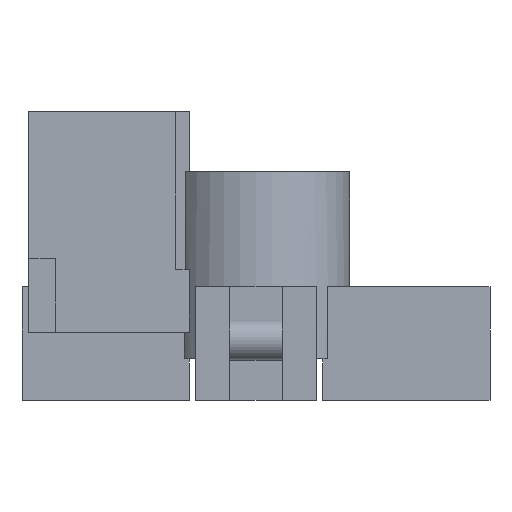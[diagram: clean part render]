
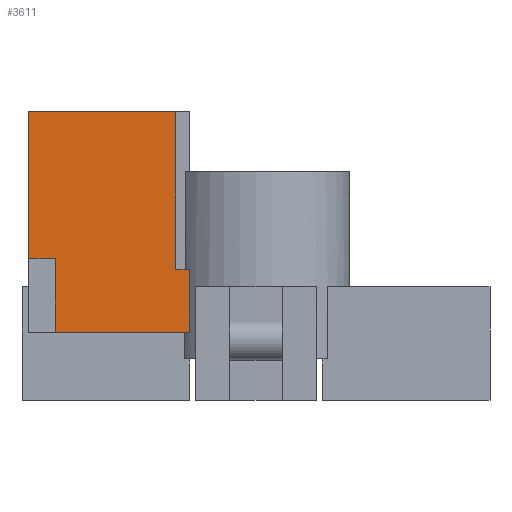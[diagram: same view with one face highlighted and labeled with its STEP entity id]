
A CAD part, front view. The second image highlights one B-rep face of the part: STEP entity #3611.
In plain terms, the highlighted planar face has unit normal (0, -1, 0).
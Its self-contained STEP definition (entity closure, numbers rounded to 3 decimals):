
#417 = PLANE('',#418);
#418 = AXIS2_PLACEMENT_3D('',#419,#420,#421);
#419 = CARTESIAN_POINT('',(-15.,-13.3,-11.));
#420 = DIRECTION('',(0.,0.,1.));
#421 = DIRECTION('',(1.,0.,0.));
#448 = PLANE('',#449);
#449 = AXIS2_PLACEMENT_3D('',#450,#451,#452);
#450 = CARTESIAN_POINT('',(-5.,-13.3,-11.));
#451 = DIRECTION('',(1.,0.,0.));
#452 = DIRECTION('',(0.,0.,1.));
#475 = PLANE('',#476);
#476 = AXIS2_PLACEMENT_3D('',#477,#478,#479);
#477 = CARTESIAN_POINT('',(-15.,-13.3,-6.3));
#478 = DIRECTION('',(0.,0.,1.));
#479 = DIRECTION('',(1.,0.,0.));
#1507 = PLANE('',#1508);
#1508 = AXIS2_PLACEMENT_3D('',#1509,#1510,#1511);
#1509 = CARTESIAN_POINT('',(-15.,-13.3,-11.));
#1510 = DIRECTION('',(1.,0.,0.));
#1511 = DIRECTION('',(0.,0.,1.));
#1608 = VERTEX_POINT('',#1609);
#1609 = CARTESIAN_POINT('',(-6.,-13.3,-6.3));
#1622 = PLANE('',#1623);
#1623 = AXIS2_PLACEMENT_3D('',#1624,#1625,#1626);
#1624 = CARTESIAN_POINT('',(-6.,-13.3,-11.));
#1625 = DIRECTION('',(1.,0.,0.));
#1626 = DIRECTION('',(0.,0.,1.));
#1634 = EDGE_CURVE('',#1608,#1635,#1637,.T.);
#1635 = VERTEX_POINT('',#1636);
#1636 = CARTESIAN_POINT('',(-5.,-13.3,-6.3));
#1637 = SURFACE_CURVE('',#1638,(#1642,#1649),.PCURVE_S1.);
#1638 = LINE('',#1639,#1640);
#1639 = CARTESIAN_POINT('',(-15.,-13.3,-6.3));
#1640 = VECTOR('',#1641,1.);
#1641 = DIRECTION('',(1.,0.,0.));
#1642 = PCURVE('',#475,#1643);
#1643 = DEFINITIONAL_REPRESENTATION('',(#1644),#1648);
#1644 = LINE('',#1645,#1646);
#1645 = CARTESIAN_POINT('',(0.,0.));
#1646 = VECTOR('',#1647,1.);
#1647 = DIRECTION('',(1.,0.));
#1648 = ( GEOMETRIC_REPRESENTATION_CONTEXT(2) 
PARAMETRIC_REPRESENTATION_CONTEXT() REPRESENTATION_CONTEXT('2D SPACE',''
  ) );
#1649 = PCURVE('',#1650,#1655);
#1650 = PLANE('',#1651);
#1651 = AXIS2_PLACEMENT_3D('',#1652,#1653,#1654);
#1652 = CARTESIAN_POINT('',(-15.,-13.3,-11.));
#1653 = DIRECTION('',(0.,1.,0.));
#1654 = DIRECTION('',(0.,0.,1.));
#1655 = DEFINITIONAL_REPRESENTATION('',(#1656),#1660);
#1656 = LINE('',#1657,#1658);
#1657 = CARTESIAN_POINT('',(4.7,0.));
#1658 = VECTOR('',#1659,1.);
#1659 = DIRECTION('',(0.,1.));
#1660 = ( GEOMETRIC_REPRESENTATION_CONTEXT(2) 
PARAMETRIC_REPRESENTATION_CONTEXT() REPRESENTATION_CONTEXT('2D SPACE',''
  ) );
#1689 = EDGE_CURVE('',#1690,#1635,#1692,.T.);
#1690 = VERTEX_POINT('',#1691);
#1691 = CARTESIAN_POINT('',(-5.,-13.3,-11.));
#1692 = SURFACE_CURVE('',#1693,(#1697,#1704),.PCURVE_S1.);
#1693 = LINE('',#1694,#1695);
#1694 = CARTESIAN_POINT('',(-5.,-13.3,-11.));
#1695 = VECTOR('',#1696,1.);
#1696 = DIRECTION('',(0.,0.,1.));
#1697 = PCURVE('',#448,#1698);
#1698 = DEFINITIONAL_REPRESENTATION('',(#1699),#1703);
#1699 = LINE('',#1700,#1701);
#1700 = CARTESIAN_POINT('',(0.,0.));
#1701 = VECTOR('',#1702,1.);
#1702 = DIRECTION('',(1.,0.));
#1703 = ( GEOMETRIC_REPRESENTATION_CONTEXT(2) 
PARAMETRIC_REPRESENTATION_CONTEXT() REPRESENTATION_CONTEXT('2D SPACE',''
  ) );
#1704 = PCURVE('',#1650,#1705);
#1705 = DEFINITIONAL_REPRESENTATION('',(#1706),#1710);
#1706 = LINE('',#1707,#1708);
#1707 = CARTESIAN_POINT('',(0.,10.));
#1708 = VECTOR('',#1709,1.);
#1709 = DIRECTION('',(1.,0.));
#1710 = ( GEOMETRIC_REPRESENTATION_CONTEXT(2) 
PARAMETRIC_REPRESENTATION_CONTEXT() REPRESENTATION_CONTEXT('2D SPACE',''
  ) );
#1738 = VERTEX_POINT('',#1739);
#1739 = CARTESIAN_POINT('',(-15.,-13.3,-11.));
#1760 = EDGE_CURVE('',#1690,#1738,#1761,.T.);
#1761 = SURFACE_CURVE('',#1762,(#1766,#1773),.PCURVE_S1.);
#1762 = LINE('',#1763,#1764);
#1763 = CARTESIAN_POINT('',(-5.,-13.3,-11.));
#1764 = VECTOR('',#1765,1.);
#1765 = DIRECTION('',(-1.,0.,0.));
#1766 = PCURVE('',#417,#1767);
#1767 = DEFINITIONAL_REPRESENTATION('',(#1768),#1772);
#1768 = LINE('',#1769,#1770);
#1769 = CARTESIAN_POINT('',(10.,0.));
#1770 = VECTOR('',#1771,1.);
#1771 = DIRECTION('',(-1.,0.));
#1772 = ( GEOMETRIC_REPRESENTATION_CONTEXT(2) 
PARAMETRIC_REPRESENTATION_CONTEXT() REPRESENTATION_CONTEXT('2D SPACE',''
  ) );
#1773 = PCURVE('',#1650,#1774);
#1774 = DEFINITIONAL_REPRESENTATION('',(#1775),#1779);
#1775 = LINE('',#1776,#1777);
#1776 = CARTESIAN_POINT('',(0.,10.));
#1777 = VECTOR('',#1778,1.);
#1778 = DIRECTION('',(0.,-1.));
#1779 = ( GEOMETRIC_REPRESENTATION_CONTEXT(2) 
PARAMETRIC_REPRESENTATION_CONTEXT() REPRESENTATION_CONTEXT('2D SPACE',''
  ) );
#3509 = VERTEX_POINT('',#3510);
#3510 = CARTESIAN_POINT('',(-15.,-13.3,-5.5));
#3524 = PLANE('',#3525);
#3525 = AXIS2_PLACEMENT_3D('',#3526,#3527,#3528);
#3526 = CARTESIAN_POINT('',(-17.,-13.3,-5.5));
#3527 = DIRECTION('',(0.,0.,1.));
#3528 = DIRECTION('',(1.,0.,0.));
#3535 = EDGE_CURVE('',#1738,#3509,#3536,.T.);
#3536 = SURFACE_CURVE('',#3537,(#3541,#3548),.PCURVE_S1.);
#3537 = LINE('',#3538,#3539);
#3538 = CARTESIAN_POINT('',(-15.,-13.3,-11.));
#3539 = VECTOR('',#3540,1.);
#3540 = DIRECTION('',(0.,0.,1.));
#3541 = PCURVE('',#1507,#3542);
#3542 = DEFINITIONAL_REPRESENTATION('',(#3543),#3547);
#3543 = LINE('',#3544,#3545);
#3544 = CARTESIAN_POINT('',(0.,0.));
#3545 = VECTOR('',#3546,1.);
#3546 = DIRECTION('',(1.,0.));
#3547 = ( GEOMETRIC_REPRESENTATION_CONTEXT(2) 
PARAMETRIC_REPRESENTATION_CONTEXT() REPRESENTATION_CONTEXT('2D SPACE',''
  ) );
#3548 = PCURVE('',#1650,#3549);
#3549 = DEFINITIONAL_REPRESENTATION('',(#3550),#3554);
#3550 = LINE('',#3551,#3552);
#3551 = CARTESIAN_POINT('',(0.,0.));
#3552 = VECTOR('',#3553,1.);
#3553 = DIRECTION('',(1.,0.));
#3554 = ( GEOMETRIC_REPRESENTATION_CONTEXT(2) 
PARAMETRIC_REPRESENTATION_CONTEXT() REPRESENTATION_CONTEXT('2D SPACE',''
  ) );
#3611 = ADVANCED_FACE('',(#3612),#1650,.F.);
#3612 = FACE_BOUND('',#3613,.F.);
#3613 = EDGE_LOOP('',(#3614,#3615,#3616,#3639,#3667,#3695,#3716,#3717));
#3614 = ORIENTED_EDGE('',*,*,#1760,.T.);
#3615 = ORIENTED_EDGE('',*,*,#3535,.T.);
#3616 = ORIENTED_EDGE('',*,*,#3617,.F.);
#3617 = EDGE_CURVE('',#3618,#3509,#3620,.T.);
#3618 = VERTEX_POINT('',#3619);
#3619 = CARTESIAN_POINT('',(-17.,-13.3,-5.5));
#3620 = SURFACE_CURVE('',#3621,(#3625,#3632),.PCURVE_S1.);
#3621 = LINE('',#3622,#3623);
#3622 = CARTESIAN_POINT('',(-17.,-13.3,-5.5));
#3623 = VECTOR('',#3624,1.);
#3624 = DIRECTION('',(1.,0.,0.));
#3625 = PCURVE('',#1650,#3626);
#3626 = DEFINITIONAL_REPRESENTATION('',(#3627),#3631);
#3627 = LINE('',#3628,#3629);
#3628 = CARTESIAN_POINT('',(5.5,-2.));
#3629 = VECTOR('',#3630,1.);
#3630 = DIRECTION('',(0.,1.));
#3631 = ( GEOMETRIC_REPRESENTATION_CONTEXT(2) 
PARAMETRIC_REPRESENTATION_CONTEXT() REPRESENTATION_CONTEXT('2D SPACE',''
  ) );
#3632 = PCURVE('',#3524,#3633);
#3633 = DEFINITIONAL_REPRESENTATION('',(#3634),#3638);
#3634 = LINE('',#3635,#3636);
#3635 = CARTESIAN_POINT('',(0.,0.));
#3636 = VECTOR('',#3637,1.);
#3637 = DIRECTION('',(1.,0.));
#3638 = ( GEOMETRIC_REPRESENTATION_CONTEXT(2) 
PARAMETRIC_REPRESENTATION_CONTEXT() REPRESENTATION_CONTEXT('2D SPACE',''
  ) );
#3639 = ORIENTED_EDGE('',*,*,#3640,.T.);
#3640 = EDGE_CURVE('',#3618,#3641,#3643,.T.);
#3641 = VERTEX_POINT('',#3642);
#3642 = CARTESIAN_POINT('',(-17.,-13.3,5.5));
#3643 = SURFACE_CURVE('',#3644,(#3648,#3655),.PCURVE_S1.);
#3644 = LINE('',#3645,#3646);
#3645 = CARTESIAN_POINT('',(-17.,-13.3,-5.5));
#3646 = VECTOR('',#3647,1.);
#3647 = DIRECTION('',(0.,0.,1.));
#3648 = PCURVE('',#1650,#3649);
#3649 = DEFINITIONAL_REPRESENTATION('',(#3650),#3654);
#3650 = LINE('',#3651,#3652);
#3651 = CARTESIAN_POINT('',(5.5,-2.));
#3652 = VECTOR('',#3653,1.);
#3653 = DIRECTION('',(1.,0.));
#3654 = ( GEOMETRIC_REPRESENTATION_CONTEXT(2) 
PARAMETRIC_REPRESENTATION_CONTEXT() REPRESENTATION_CONTEXT('2D SPACE',''
  ) );
#3655 = PCURVE('',#3656,#3661);
#3656 = PLANE('',#3657);
#3657 = AXIS2_PLACEMENT_3D('',#3658,#3659,#3660);
#3658 = CARTESIAN_POINT('',(-17.,-13.3,-5.5));
#3659 = DIRECTION('',(1.,0.,0.));
#3660 = DIRECTION('',(0.,0.,1.));
#3661 = DEFINITIONAL_REPRESENTATION('',(#3662),#3666);
#3662 = LINE('',#3663,#3664);
#3663 = CARTESIAN_POINT('',(0.,0.));
#3664 = VECTOR('',#3665,1.);
#3665 = DIRECTION('',(1.,0.));
#3666 = ( GEOMETRIC_REPRESENTATION_CONTEXT(2) 
PARAMETRIC_REPRESENTATION_CONTEXT() REPRESENTATION_CONTEXT('2D SPACE',''
  ) );
#3667 = ORIENTED_EDGE('',*,*,#3668,.T.);
#3668 = EDGE_CURVE('',#3641,#3669,#3671,.T.);
#3669 = VERTEX_POINT('',#3670);
#3670 = CARTESIAN_POINT('',(-6.,-13.3,5.5));
#3671 = SURFACE_CURVE('',#3672,(#3676,#3683),.PCURVE_S1.);
#3672 = LINE('',#3673,#3674);
#3673 = CARTESIAN_POINT('',(-17.,-13.3,5.5));
#3674 = VECTOR('',#3675,1.);
#3675 = DIRECTION('',(1.,0.,0.));
#3676 = PCURVE('',#1650,#3677);
#3677 = DEFINITIONAL_REPRESENTATION('',(#3678),#3682);
#3678 = LINE('',#3679,#3680);
#3679 = CARTESIAN_POINT('',(16.5,-2.));
#3680 = VECTOR('',#3681,1.);
#3681 = DIRECTION('',(0.,1.));
#3682 = ( GEOMETRIC_REPRESENTATION_CONTEXT(2) 
PARAMETRIC_REPRESENTATION_CONTEXT() REPRESENTATION_CONTEXT('2D SPACE',''
  ) );
#3683 = PCURVE('',#3684,#3689);
#3684 = PLANE('',#3685);
#3685 = AXIS2_PLACEMENT_3D('',#3686,#3687,#3688);
#3686 = CARTESIAN_POINT('',(-17.,-13.3,5.5));
#3687 = DIRECTION('',(0.,0.,1.));
#3688 = DIRECTION('',(1.,0.,0.));
#3689 = DEFINITIONAL_REPRESENTATION('',(#3690),#3694);
#3690 = LINE('',#3691,#3692);
#3691 = CARTESIAN_POINT('',(0.,0.));
#3692 = VECTOR('',#3693,1.);
#3693 = DIRECTION('',(1.,0.));
#3694 = ( GEOMETRIC_REPRESENTATION_CONTEXT(2) 
PARAMETRIC_REPRESENTATION_CONTEXT() REPRESENTATION_CONTEXT('2D SPACE',''
  ) );
#3695 = ORIENTED_EDGE('',*,*,#3696,.F.);
#3696 = EDGE_CURVE('',#1608,#3669,#3697,.T.);
#3697 = SURFACE_CURVE('',#3698,(#3702,#3709),.PCURVE_S1.);
#3698 = LINE('',#3699,#3700);
#3699 = CARTESIAN_POINT('',(-6.,-13.3,-6.3));
#3700 = VECTOR('',#3701,1.);
#3701 = DIRECTION('',(0.,0.,1.));
#3702 = PCURVE('',#1650,#3703);
#3703 = DEFINITIONAL_REPRESENTATION('',(#3704),#3708);
#3704 = LINE('',#3705,#3706);
#3705 = CARTESIAN_POINT('',(4.7,9.));
#3706 = VECTOR('',#3707,1.);
#3707 = DIRECTION('',(1.,0.));
#3708 = ( GEOMETRIC_REPRESENTATION_CONTEXT(2) 
PARAMETRIC_REPRESENTATION_CONTEXT() REPRESENTATION_CONTEXT('2D SPACE',''
  ) );
#3709 = PCURVE('',#1622,#3710);
#3710 = DEFINITIONAL_REPRESENTATION('',(#3711),#3715);
#3711 = LINE('',#3712,#3713);
#3712 = CARTESIAN_POINT('',(4.7,0.));
#3713 = VECTOR('',#3714,1.);
#3714 = DIRECTION('',(1.,0.));
#3715 = ( GEOMETRIC_REPRESENTATION_CONTEXT(2) 
PARAMETRIC_REPRESENTATION_CONTEXT() REPRESENTATION_CONTEXT('2D SPACE',''
  ) );
#3716 = ORIENTED_EDGE('',*,*,#1634,.T.);
#3717 = ORIENTED_EDGE('',*,*,#1689,.F.);
